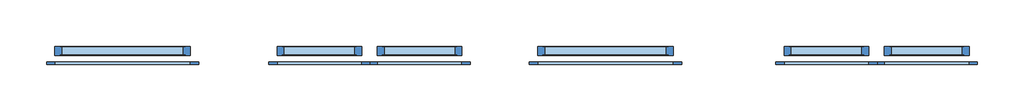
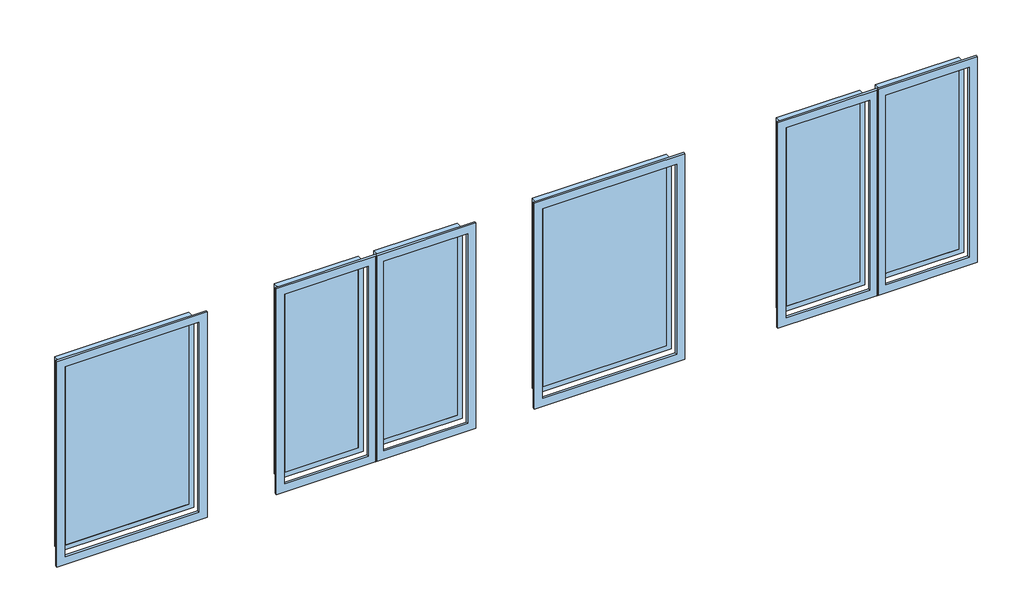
# One storey: 6 windows.
"""IFC4 building model written with IfcOpenShell, lengths in millimetres."""

from ifc_helpers import new_model, si_unit, origin, place, context, project, spatial, transform, mapped, element, save
from components import window_fixed_trim_with_double_glass_750_x_1500_mm_20c75347, window_fixed_trim_with_double_glass_750_x_1500_mm_2_a35bcce7

model = new_model("IFC4")

# Units and contexts
model_context = context("Model", 3, world=origin())
ifc_project = project(units=[si_unit("LENGTHUNIT", "METRE", prefix="MILLI")], contexts=[model_context])

# Site, building, storey
site = spatial("IfcSite", under=ifc_project)
building = spatial("IfcBuilding", under=site)
storey = spatial("IfcBuildingStorey", under=building, Name="طبقه 3", Elevation=9600.0)

# Windows
placement = place(None, origin())
window_fixed_trim_with_double_glass_750_x_1500_mm_shape = window_fixed_trim_with_double_glass_750_x_1500_mm_20c75347(model_context)
element("IfcWindow", 1, ObjectType="Window fixed-trim with double glass : 750 x 1500 mm", at=placement, inside=storey, context=model_context, shape_type="MappedRepresentation", body=[
    mapped(window_fixed_trim_with_double_glass_750_x_1500_mm_shape, transform((1723.1054099, 931.9973325, 9425.0), x_axis=(-1.0, 0.0, 0.0), y_axis=(0.0, -1.0, 0.0), z_axis=(0.0, 0.0, 1.0))),
])
element("IfcWindow", 2, ObjectType="Window fixed-trim with double glass : 750 x 1500 mm", at=placement, inside=storey, context=model_context, shape_type="MappedRepresentation", body=[
    mapped(window_fixed_trim_with_double_glass_750_x_1500_mm_shape, transform((833.1054099, 931.9973325, 9425.0), x_axis=(-1.0, 0.0, 0.0), y_axis=(0.0, -1.0, 0.0), z_axis=(0.0, 0.0, 1.0))),
])
element("IfcWindow", 3, ObjectType="Window fixed-trim with double glass : 750 x 1500 mm", at=placement, inside=storey, context=model_context, shape_type="MappedRepresentation", body=[
    mapped(window_fixed_trim_with_double_glass_750_x_1500_mm_shape, transform((-2776.8945901, 931.9973325, 9425.0), x_axis=(-1.0, 0.0, 0.0), y_axis=(0.0, -1.0, 0.0), z_axis=(0.0, 0.0, 1.0))),
])
element("IfcWindow", 4, ObjectType="Window fixed-trim with double glass : 750 x 1500 mm", at=placement, inside=storey, context=model_context, shape_type="MappedRepresentation", body=[
    mapped(window_fixed_trim_with_double_glass_750_x_1500_mm_shape, transform((-3666.8945901, 931.9973325, 9425.0), x_axis=(-1.0, 0.0, 0.0), y_axis=(0.0, -1.0, 0.0), z_axis=(0.0, 0.0, 1.0))),
])
window_fixed_trim_with_double_glass_750_x_1500_mm_2_shape = window_fixed_trim_with_double_glass_750_x_1500_mm_2_a35bcce7(model_context)
element("IfcWindow", 5, ObjectType="Window fixed-trim with double glass : 750 x 1500 mm 2", at=placement, inside=storey, context=model_context, shape_type="MappedRepresentation", body=[
    mapped(window_fixed_trim_with_double_glass_750_x_1500_mm_2_shape, transform((-5411.8945901, 931.9973325, 9425.0), x_axis=(-1.0, 0.0, 0.0), y_axis=(0.0, -1.0, 0.0), z_axis=(0.0, 0.0, 1.0))),
])
element("IfcWindow", 6, ObjectType="Window fixed-trim with double glass : 750 x 1500 mm 2", at=placement, inside=storey, context=model_context, shape_type="MappedRepresentation", body=[
    mapped(window_fixed_trim_with_double_glass_750_x_1500_mm_2_shape, transform((-1126.8945901, 931.9973325, 9425.0), x_axis=(-1.0, 0.0, 0.0), y_axis=(0.0, -1.0, 0.0), z_axis=(0.0, 0.0, 1.0))),
])

save(model, "model.ifc")
